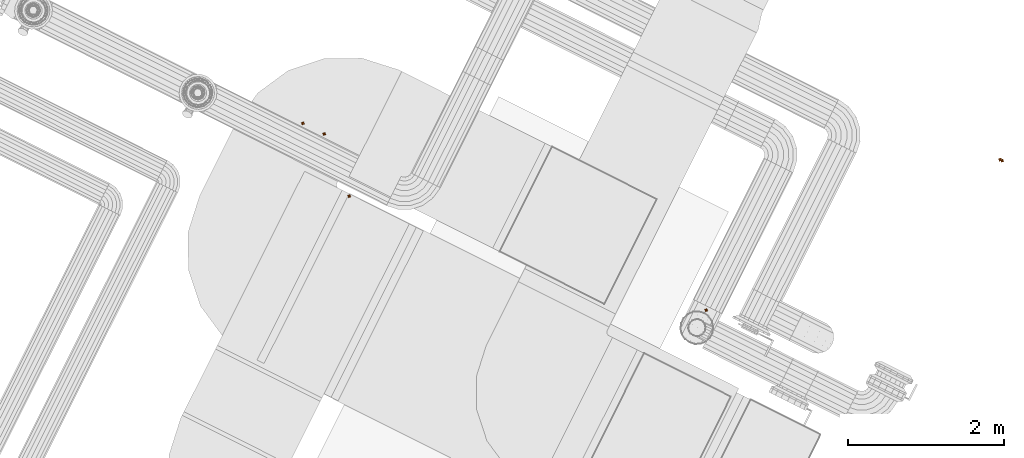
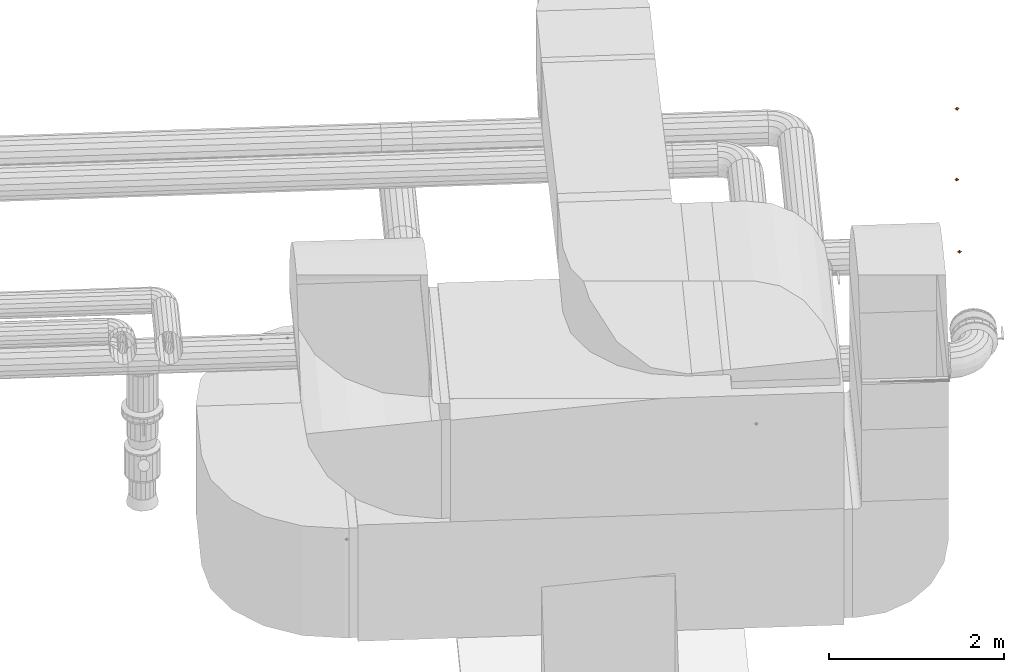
# One storey, part 149 of 152: 7 proxies.
"""IFC2X3 building model written with IfcOpenShell, lengths in metres."""

import ifcopenshell
import ifcopenshell.guid

model = None  # the IFC model being written
_history = None  # IfcOwnerHistory: only IFC2X3 demands one
_inside = {}  # id of a spatial element -> (the spatial element, [elements in it])
_under = {}  # id of a project, library or spatial element -> (it, [spatial elements below it])
_declared = {}  # id of a project -> (the project, [libraries it declares])
_typed = {}  # id of a type object -> (the type object, [elements of that type])
_made_of = {}  # id of a material, layer set ... -> (it, [elements and type objects made of it])


def new_model(schema):
    """Start an empty IFC model of exactly this schema.

    Asked for "IFC4X3", IfcOpenShell would pick the latest addendum, in which some entities
    have other attributes; the version numbers below select the first issue.
    IFC2X3 requires an IfcOwnerHistory on every rooted entity: one is made here for all.
    """
    global model, _history
    if schema == "IFC4X3":
        model = ifcopenshell.file(schema_version=(4, 3, 0, 0))
    else:
        model = ifcopenshell.file(schema=schema)
    _inside.clear()
    _under.clear()
    _declared.clear()
    _typed.clear()
    _made_of.clear()
    _history = None
    if model.schema == "IFC2X3":
        org = make("IfcOrganization", Name="unknown")
        user = make(
            "IfcPersonAndOrganization",
            ThePerson=make("IfcPerson", FamilyName="unknown"),
            TheOrganization=org,
        )
        app = make(
            "IfcApplication",
            ApplicationDeveloper=org,
            Version="unknown",
            ApplicationFullName="unknown",
            ApplicationIdentifier="unknown",
        )
        _history = make(
            "IfcOwnerHistory",
            OwningUser=user,
            OwningApplication=app,
            ChangeAction="ADDED",
            CreationDate=0,
        )
    return model


def make(cls, **values):
    """One entity of the class cls with the attributes given. An attribute that is None is left unset."""
    return model.create_entity(
        cls, **{name: value for name, value in values.items() if value is not None}
    )


def rooted(cls, **values):
    """An entity with a GlobalId (a new one), such as an element, a storey or a relation."""
    return make(cls, GlobalId=ifcopenshell.guid.new(), OwnerHistory=_history, **values)


def si_unit(unit_type, name, prefix=None):
    """IfcSIUnit, for example si_unit("LENGTHUNIT", "METRE", prefix="MILLI")."""
    return make("IfcSIUnit", UnitType=unit_type, Prefix=prefix, Name=name)


def derived_unit(unit_type, elements):
    """IfcDerivedUnit: a product of units, each with its exponent."""
    return make(
        "IfcDerivedUnit",
        Elements=[
            make("IfcDerivedUnitElement", Unit=unit, Exponent=power)
            for unit, power in elements
        ],
        UnitType=unit_type,
    )


def assignment(units):
    """IfcUnitAssignment: the units of a project."""
    return None if units is None else make("IfcUnitAssignment", Units=units)


def point(xyz):
    """IfcCartesianPoint."""
    return None if xyz is None else make("IfcCartesianPoint", Coordinates=xyz)


def direction(xyz):
    """IfcDirection."""
    return None if xyz is None else make("IfcDirection", DirectionRatios=xyz)


def frame(location, z_axis=None, x_axis=None):
    """IfcAxis2Placement3D, a coordinate frame: its origin and axes. An axis left out is left unset."""
    return make(
        "IfcAxis2Placement3D",
        Location=point(location),
        Axis=direction(z_axis),
        RefDirection=direction(x_axis),
    )


def origin():
    """The frame at (0, 0, 0) with its axes left unset."""
    return frame((0.0, 0.0, 0.0))


def place(relative_to, where):
    """IfcLocalPlacement: puts the frame where relative to a parent placement (None: the world)."""
    return make(
        "IfcLocalPlacement", PlacementRelTo=relative_to, RelativePlacement=where
    )


def context(
    kind, dimensions, precision=None, world=None, true_north=None, identifier=None
):
    """IfcGeometricRepresentationContext, for example the 3D "Model" context."""
    return make(
        "IfcGeometricRepresentationContext",
        ContextIdentifier=identifier,
        ContextType=kind,
        CoordinateSpaceDimension=dimensions,
        Precision=precision,
        WorldCoordinateSystem=world,
        TrueNorth=true_north,
    )


def subcontext(parent, identifier, kind, view, scale=None):
    """IfcGeometricRepresentationSubContext, for example "Body" below "Model"."""
    return make(
        "IfcGeometricRepresentationSubContext",
        ContextIdentifier=identifier,
        ContextType=kind,
        ParentContext=parent,
        TargetScale=scale,
        TargetView=view,
    )


def project(units=None, contexts=None):
    """IfcProject with its units and contexts."""
    return rooted(
        "IfcProject",
        Name="project",
        RepresentationContexts=contexts,
        UnitsInContext=assignment(units),
    )


def spatial(cls, under=None, at=None, **own):
    """A site, building, storey or space (cls), placed at a placement, below another one or the project."""
    s = rooted(cls, ObjectPlacement=at, **own)
    if under is not None:
        _under.setdefault(under.id(), (under, []))[1].append(s)
    return s


def faces_of(points, faces, orient=None, outer=None):
    """IfcFace entities. A face is a list of loops; a loop is a list of indices into points, from 0.

    orient and outer hold one flag for each loop. By default every Orientation is true, the
    first loop of a face is its IfcFaceOuterBound and the others are IfcFaceBound.
    """
    made = []
    for i, loops in enumerate(faces):
        bounds = []
        for j, loop in enumerate(loops):
            is_outer = j == 0 if outer is None else outer[i][j]
            bounds.append(
                make(
                    "IfcFaceOuterBound" if is_outer else "IfcFaceBound",
                    Bound=make("IfcPolyLoop", Polygon=[points[k] for k in loop]),
                    Orientation=True if orient is None else orient[i][j],
                )
            )
        made.append(make("IfcFace", Bounds=bounds))
    return made


def faceted_brep(points, faces, orient=None, outer=None, voids=None):
    """IfcFacetedBrep: a solid bounded by flat faces; with voids (closed shells), ...WithVoids."""
    shared = [point(p) for p in points]
    hull = make("IfcClosedShell", CfsFaces=faces_of(shared, faces, orient, outer))
    if voids is None:
        return make("IfcFacetedBrep", Outer=hull)
    return make(
        "IfcFacetedBrepWithVoids",
        Outer=hull,
        Voids=[
            make(cls, CfsFaces=faces_of(shared, fs, o, b)) for cls, fs, o, b in voids
        ],
    )


def shape(context_of_items, identifier, shape_type, items):
    """IfcShapeRepresentation: the items that make up one representation, for example the "Body"."""
    return make(
        "IfcShapeRepresentation",
        ContextOfItems=context_of_items,
        RepresentationIdentifier=identifier,
        RepresentationType=shape_type,
        Items=items,
    )


def made_of(thing, what):
    """Note that an element or type object is made of a material, layer set ...; save() writes the relation."""
    if what is not None:
        _made_of.setdefault(what.id(), (what, []))[1].append(thing)
    return thing


def type_object(cls, material=None, **own):
    """A type object (cls), such as IfcWallType, which elements share."""
    return made_of(rooted(cls, **own), material)


def element(
    cls,
    number,
    at=None,
    inside=None,
    cuts=None,
    type_object=None,
    material=None,
    context=None,
    identifier="Body",
    shape_type=None,
    held_by="IfcProductDefinitionShape",
    body=None,
    shapes=None,
    **own,
):
    """One element of the class cls, such as IfcWall. Its Tag is "e" and its number.

    at: its placement. inside: the storey or other place that contains it. cuts: it is an
    opening in that element (IfcRelVoidsElement). A single representation is given by context,
    identifier, shape_type and body (its items); several are given by shapes. held_by: the class
    of the entity that holds the representations. save() writes the other relations.
    """
    e = rooted(cls, Tag="e%d" % number, ObjectPlacement=at, **own)
    if body is not None:
        shapes = [shape(context, identifier, shape_type, body)]
    if shapes is not None:
        e.Representation = make(held_by, Representations=shapes)
    if inside is not None:
        _inside.setdefault(inside.id(), (inside, []))[1].append(e)
    if cuts is not None:
        rooted(
            "IfcRelVoidsElement", RelatingBuildingElement=cuts, RelatedOpeningElement=e
        )
    if type_object is not None:
        _typed.setdefault(type_object.id(), (type_object, []))[1].append(e)
    return made_of(e, material)


def aggregate(whole, parts):
    """IfcRelAggregates: a whole, such as a stair, and the parts it consists of."""
    return rooted("IfcRelAggregates", RelatingObject=whole, RelatedObjects=parts)


def save(model, path):
    """Write the relations noted so far, then the file.

    IfcRelAggregates (storeys below a building ...), IfcRelContainedInSpatialStructure (elements
    in a storey), IfcRelDefinesByType, IfcRelAssociatesMaterial and IfcRelDeclares: one each for
    every whole, place, type object, material and project.
    """
    for whole, parts in _under.values():
        aggregate(whole, parts)
    for where, things in _inside.values():
        rooted(
            "IfcRelContainedInSpatialStructure",
            RelatedElements=things,
            RelatingStructure=where,
        )
    for kind, things in _typed.values():
        rooted("IfcRelDefinesByType", RelatedObjects=things, RelatingType=kind)
    for what, things in _made_of.values():
        rooted("IfcRelAssociatesMaterial", RelatedObjects=things, RelatingMaterial=what)
    for by, libraries in _declared.values():
        rooted("IfcRelDeclares", RelatingContext=by, RelatedDefinitions=libraries)
    model.write(path)


model = new_model("IFC2X3")

# Units and contexts
model_context = context("Model", 3, precision=5.2338327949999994e-05, world=origin(), true_north=direction((0.0, 1.0)))
body_context = subcontext(model_context, "Body", "Model", "MODEL_VIEW")
ifc_project = project(units=[si_unit("LENGTHUNIT", "METRE"), si_unit("AREAUNIT", "SQUARE_METRE"), si_unit("VOLUMEUNIT", "CUBIC_METRE"), si_unit("MASSUNIT", "GRAM", prefix="KILO"), si_unit("PLANEANGLEUNIT", "RADIAN"), derived_unit("THERMALTRANSMITTANCEUNIT", [(si_unit("MASSUNIT", "GRAM", prefix="KILO"), 1), (si_unit("THERMODYNAMICTEMPERATUREUNIT", "KELVIN"), -1), (si_unit("TIMEUNIT", "SECOND"), -3)])], contexts=[model_context])

# Site, building, storey
site_placement = place(None, frame((0.0, 0.0, 0.0), z_axis=(0.0, 0.0, 1.0), x_axis=(0.8939966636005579, -0.4480736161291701, 0.0)))
site = spatial("IfcSite", under=ifc_project, at=site_placement, Name="Default", CompositionType="ELEMENT")
building_placement = place(site_placement, origin())
building = spatial("IfcBuilding", under=site, at=building_placement, CompositionType="ELEMENT")
storey_placement = place(building_placement, frame((0.0, 0.0, 2.7499999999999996)))
storey = spatial("IfcBuildingStorey", under=building, at=storey_placement, Name="1. Obergeschoss", CompositionType="ELEMENT", Elevation=2.7499999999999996)

# Proxies
building_element_proxy_type = type_object("IfcBuildingElementProxyType", Name="DirectShape:Gebäudeautomation", PredefinedType="NOTDEFINED")
proxy_1_placement = place(storey_placement, origin())
element("IfcBuildingElementProxy", 1, at=proxy_1_placement, inside=storey, type_object=building_element_proxy_type, Name="DirectShape:Wärmespeicher Vorlauffühler", context=body_context, shape_type="Brep", body=[
    faceted_brep([(32.49897676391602, 8.888280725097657, 0.8131874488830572), (32.47397828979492, 8.888280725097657, 0.8381873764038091), (32.49897676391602, 8.913280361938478, 0.8381873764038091), (32.49897676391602, 8.863281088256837, 0.8381873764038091), (32.52397756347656, 8.888280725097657, 0.8381873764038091), (32.49897676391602, 8.888280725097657, 0.8631875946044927)], [[[0, 1, 2]], [[0, 3, 1]], [[0, 4, 3]], [[0, 2, 4]], [[5, 2, 1]], [[5, 1, 3]], [[5, 3, 4]], [[5, 4, 2]]]),
])
proxy_2_placement = place(storey_placement, origin())
element("IfcBuildingElementProxy", 2, at=proxy_2_placement, inside=storey, type_object=building_element_proxy_type, Name="DirectShape:Wärmespeicher Pufferfühler oben", context=body_context, shape_type="Brep", body=[
    faceted_brep([(35.000589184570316, 12.296608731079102, 2.726126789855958), (34.975588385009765, 12.296608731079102, 2.751126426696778), (35.000589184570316, 12.321608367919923, 2.751126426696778), (35.000589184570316, 12.271609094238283, 2.751126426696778), (35.02558765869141, 12.296608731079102, 2.751126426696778), (35.000589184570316, 12.296608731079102, 2.7761266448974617)], [[[0, 1, 2]], [[0, 3, 1]], [[0, 4, 3]], [[0, 2, 4]], [[5, 2, 1]], [[5, 1, 3]], [[5, 3, 4]], [[5, 4, 2]]]),
])
proxy_3_placement = place(storey_placement, origin())
element("IfcBuildingElementProxy", 3, at=proxy_3_placement, inside=storey, type_object=building_element_proxy_type, Name="DirectShape:Wärmespeicher Pufferfühler oben mitte", context=body_context, shape_type="Brep", body=[
    faceted_brep([(34.99747542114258, 12.296608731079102, 1.7373906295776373), (34.97247462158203, 12.296608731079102, 1.7623905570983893), (34.99747542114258, 12.321608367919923, 1.7623905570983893), (34.99747542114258, 12.271609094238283, 1.7623905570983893), (35.02247389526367, 12.296608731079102, 1.7623905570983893), (34.99747542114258, 12.296608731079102, 1.787390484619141)], [[[0, 1, 2]], [[0, 3, 1]], [[0, 4, 3]], [[0, 2, 4]], [[5, 2, 1]], [[5, 1, 3]], [[5, 3, 4]], [[5, 4, 2]]]),
])
proxy_4_placement = place(storey_placement, origin())
element("IfcBuildingElementProxy", 4, at=proxy_4_placement, inside=storey, type_object=building_element_proxy_type, Name="DirectShape:Wärmespeicher Pufferfühler mitte", context=body_context, shape_type="Brep", body=[
    faceted_brep([(35.02853166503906, 12.296608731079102, 0.7278839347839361), (35.00353319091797, 12.296608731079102, 0.752883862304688), (35.02853166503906, 12.321608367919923, 0.752883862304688), (35.02853166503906, 12.271609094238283, 0.752883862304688), (35.05353246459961, 12.296608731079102, 0.752883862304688), (35.02853166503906, 12.296608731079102, 0.7778837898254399)], [[[0, 1, 2]], [[0, 3, 1]], [[0, 4, 3]], [[0, 2, 4]], [[5, 2, 1]], [[5, 1, 3]], [[5, 3, 4]], [[5, 4, 2]]]),
])
proxy_5_placement = place(storey_placement, origin())
element("IfcBuildingElementProxy", 5, at=proxy_5_placement, inside=storey, type_object=building_element_proxy_type, Name="DirectShape:Blockheizkreaftwerk Wärmemengenzähler", context=body_context, shape_type="Brep", body=[
    faceted_brep([(27.761382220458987, 8.145584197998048, -0.08378657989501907), (27.736383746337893, 8.145584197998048, -0.05878636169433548), (27.761382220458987, 8.17058441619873, -0.05878636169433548), (27.761382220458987, 8.120583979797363, -0.05878636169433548), (27.78638302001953, 8.145584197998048, -0.05878636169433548), (27.761382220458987, 8.145584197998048, -0.03378643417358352)], [[[0, 1, 2]], [[0, 3, 1]], [[0, 4, 3]], [[0, 2, 4]], [[5, 2, 1]], [[5, 1, 3]], [[5, 3, 4]], [[5, 4, 2]]]),
])
proxy_6_placement = place(storey_placement, origin())
element("IfcBuildingElementProxy", 6, at=proxy_6_placement, inside=storey, type_object=building_element_proxy_type, Name="DirectShape:Wärmeerzeugung Rücklauffühler", context=body_context, shape_type="Brep", body=[
    faceted_brep([(26.81409353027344, 8.712611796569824, 2.351504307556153), (26.78909273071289, 8.712611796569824, 2.376503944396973), (26.81409353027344, 8.737611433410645, 2.376503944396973), (26.81409353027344, 8.687611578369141, 2.376503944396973), (26.839094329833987, 8.712611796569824, 2.376503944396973), (26.81409353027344, 8.712611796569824, 2.4015041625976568)], [[[0, 1, 2]], [[0, 3, 1]], [[0, 4, 3]], [[0, 2, 4]], [[5, 2, 1]], [[5, 1, 3]], [[5, 3, 4]], [[5, 4, 2]]]),
])
proxy_7_placement = place(storey_placement, origin())
element("IfcBuildingElementProxy", 7, at=proxy_7_placement, inside=storey, type_object=building_element_proxy_type, Name="DirectShape:Wärmeerzeugung Druckaufnehmer", context=body_context, shape_type="Brep", body=[
    faceted_brep([(27.118088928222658, 8.71436866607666, 2.353005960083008), (27.09308812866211, 8.71436866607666, 2.378006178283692), (27.118088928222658, 8.73936830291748, 2.378006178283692), (27.118088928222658, 8.689368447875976, 2.378006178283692), (27.143087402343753, 8.71436866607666, 2.378006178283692), (27.118088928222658, 8.71436866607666, 2.403005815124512)], [[[0, 1, 2]], [[0, 3, 1]], [[0, 4, 3]], [[0, 2, 4]], [[5, 2, 1]], [[5, 1, 3]], [[5, 3, 4]], [[5, 4, 2]]]),
])

save(model, "model.ifc")
